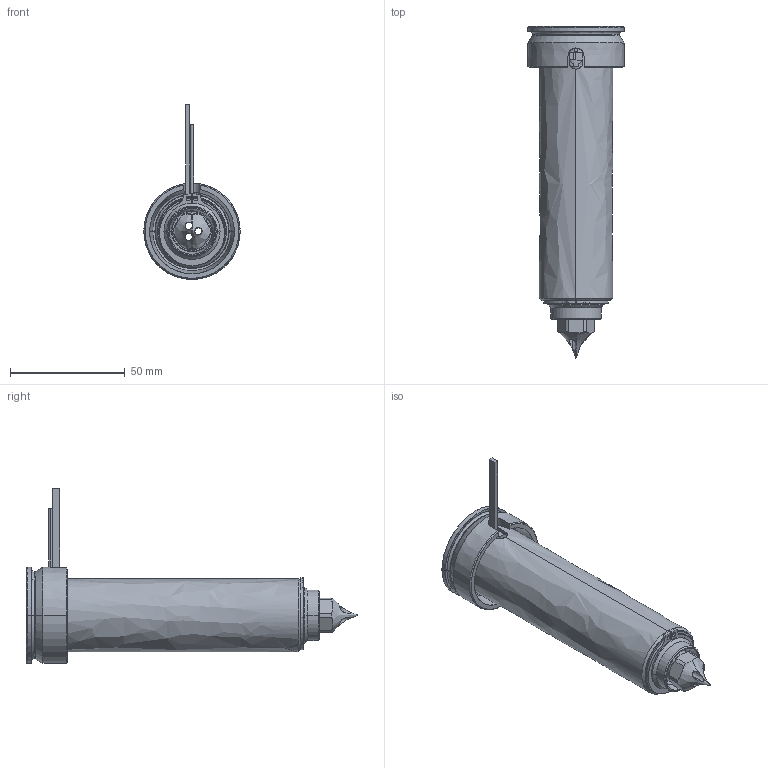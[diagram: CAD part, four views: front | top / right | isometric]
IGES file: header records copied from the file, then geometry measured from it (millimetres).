
Start section: SolidWorks IGES file using analytic representation for surfaces
Global section: file name: C:\Users\luca.EMPAD\Desktop\TEM\UGDL3614-M-A-1 [Øf=0.3 ØC=09].IGS; native system: SolidWorks 2012; preprocessor: SolidWorks 2012; author: luca; date: 120330.155610; units: millimetre
Bounding box: 42 x 144.8 x 76.3 mm (x, y, z)
Surface area: 46524.1 mm2 (no closed solid volume)
Topology: 0 solids, 0 shells, 127 faces, 2206 edges, 2206 vertices
Faces by surface type: revolution 81, bspline 46
